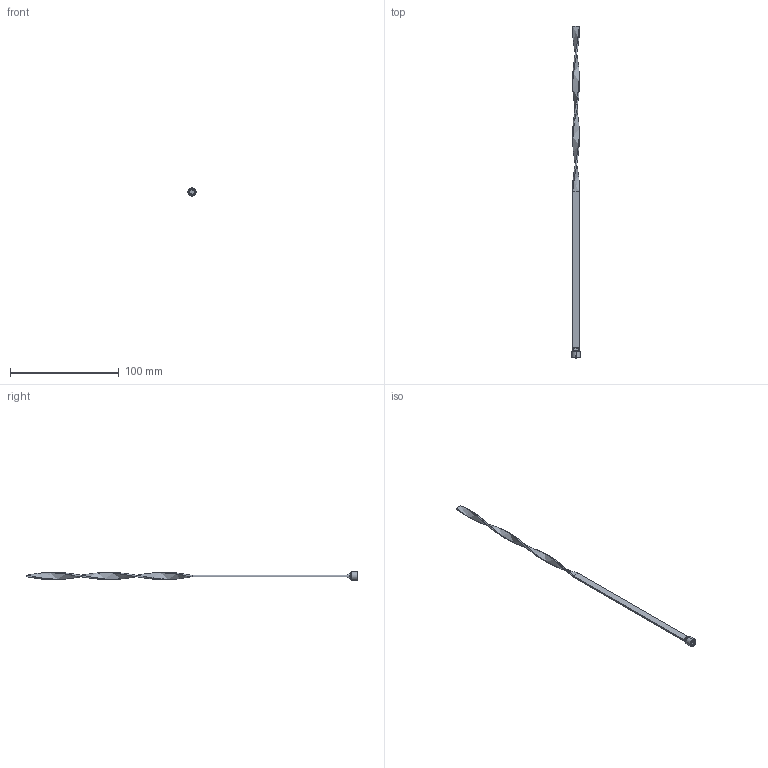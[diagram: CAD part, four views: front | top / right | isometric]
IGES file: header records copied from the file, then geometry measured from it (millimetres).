
Start section: SolidWorks IGES file using analytic representation for surfaces
Global section: file name: C:\Users\365admin\AppData\Local\Temp\InFlowConvert3DWorking\TB06L12.igs; native system: SolidWorks 2020; preprocessor: SolidWorks 2020; author: 365admin; date: 230309.101847; units: inch
Bounding box: 7.62 x 304.8 x 7.62 mm (x, y, z)
Surface area: 4797.8 mm2 (no closed solid volume)
Topology: 0 solids, 0 shells, 49 faces, 492 edges, 492 vertices
Faces by surface type: bspline 29, revolution 20
